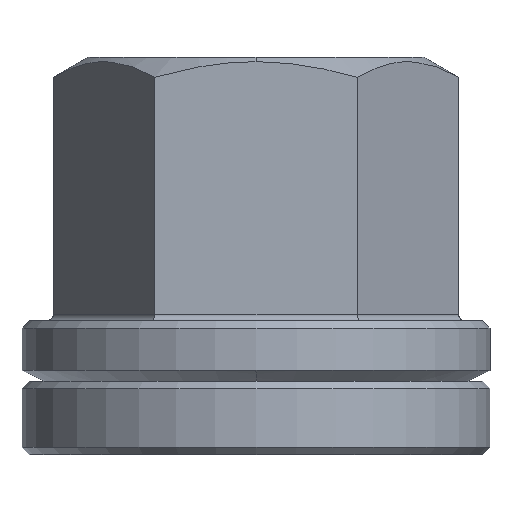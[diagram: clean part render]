
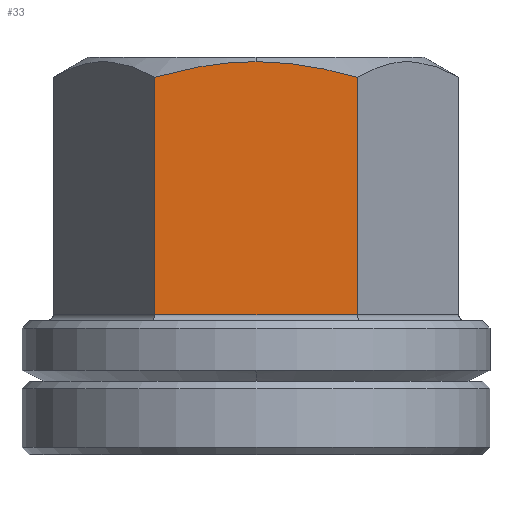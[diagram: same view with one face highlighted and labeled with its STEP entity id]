
A CAD part, left-side view. The second image highlights one B-rep face of the part: STEP entity #33.
In plain terms, the highlighted planar face has unit normal (-1, 0, 0).
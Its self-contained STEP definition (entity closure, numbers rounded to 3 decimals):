
#13 = CARTESIAN_POINT ( 'NONE',  ( -12., -4.647, 26.391 ) ) ;
#24 = EDGE_CURVE ( 'NONE', #604, #758, #165, .T. ) ;
#33 = ADVANCED_FACE ( 'NONE', ( #845 ), #1089, .T. ) ;
#39 = VECTOR ( 'NONE', #473, 1000. ) ;
#103 = CARTESIAN_POINT ( 'NONE',  ( -12., -6.928, -27.507 ) ) ;
#143 = EDGE_CURVE ( 'NONE', #604, #1190, #286, .T. ) ;
#152 = CARTESIAN_POINT ( 'NONE',  ( -12., 4.673, 26.386 ) ) ;
#161 = CARTESIAN_POINT ( 'NONE',  ( -12., 6.928, 9.553 ) ) ;
#165 = LINE ( 'NONE', #934, #825 ) ;
#186 = CARTESIAN_POINT ( 'NONE',  ( -12., 0., 26.865 ) ) ;
#191 = LINE ( 'NONE', #103, #39 ) ;
#226 = B_SPLINE_CURVE_WITH_KNOTS ( 'NONE', 3,
 ( #1209, #735, #570, #13, #1043, #555 ),
 .UNSPECIFIED., .F., .F.,
 ( 4, 2, 4 ),
 ( 0.038, 0.042, 0.045 ),
 .UNSPECIFIED. ) ;
#256 = CARTESIAN_POINT ( 'NONE',  ( -12., 6.928, -51.746 ) ) ;
#260 = CARTESIAN_POINT ( 'NONE',  ( -12., 2.938, 26.667 ) ) ;
#264 = EDGE_CURVE ( 'NONE', #758, #804, #503, .T. ) ;
#265 = CARTESIAN_POINT ( 'NONE',  ( -12., 0.586, 26.865 ) ) ;
#286 = LINE ( 'NONE', #666, #1014 ) ;
#294 = ORIENTED_EDGE ( 'NONE', *, *, #374, .F. ) ;
#339 = VERTEX_POINT ( 'NONE', #674 ) ;
#340 = CARTESIAN_POINT ( 'NONE',  ( -12., 5.808, 26.116 ) ) ;
#356 = DIRECTION ( 'NONE',  ( 0., 0., 1. ) ) ;
#374 = EDGE_CURVE ( 'NONE', #804, #339, #226, .T. ) ;
#463 = DIRECTION ( 'NONE',  ( 0., -1., 0. ) ) ;
#472 = ORIENTED_EDGE ( 'NONE', *, *, #24, .F. ) ;
#473 = DIRECTION ( 'NONE',  ( 0., 0., 1. ) ) ;
#503 = B_SPLINE_CURVE_WITH_KNOTS ( 'NONE', 3,
 ( #544, #340, #152, #260, #1193, #1100, #265, #645 ),
 .UNSPECIFIED., .F., .F.,
 ( 4, 2, 2, 4 ),
 ( 0.031, 0.035, 0.036, 0.038 ),
 .UNSPECIFIED. ) ;
#527 = CARTESIAN_POINT ( 'NONE',  ( -12., 6.928, 25.793 ) ) ;
#542 = DIRECTION ( 'NONE',  ( -1., 0., 0. ) ) ;
#544 = CARTESIAN_POINT ( 'NONE',  ( -12., 6.928, 25.793 ) ) ;
#551 = ORIENTED_EDGE ( 'NONE', *, *, #264, .F. ) ;
#555 = CARTESIAN_POINT ( 'NONE',  ( -12., -6.928, 25.793 ) ) ;
#570 = CARTESIAN_POINT ( 'NONE',  ( -12., -2.334, 26.764 ) ) ;
#604 = VERTEX_POINT ( 'NONE', #161 ) ;
#639 = DIRECTION ( 'NONE',  ( 0., 0., 1. ) ) ;
#645 = CARTESIAN_POINT ( 'NONE',  ( -12., 0., 26.865 ) ) ;
#666 = CARTESIAN_POINT ( 'NONE',  ( -12., -6.928, 9.553 ) ) ;
#674 = CARTESIAN_POINT ( 'NONE',  ( -12., -6.928, 25.793 ) ) ;
#714 = ORIENTED_EDGE ( 'NONE', *, *, #143, .T. ) ;
#735 = CARTESIAN_POINT ( 'NONE',  ( -12., -1.171, 26.865 ) ) ;
#736 = AXIS2_PLACEMENT_3D ( 'NONE', #256, #542, #356 ) ;
#744 = CARTESIAN_POINT ( 'NONE',  ( -12., -6.928, 9.553 ) ) ;
#758 = VERTEX_POINT ( 'NONE', #527 ) ;
#774 = ORIENTED_EDGE ( 'NONE', *, *, #815, .T. ) ;
#804 = VERTEX_POINT ( 'NONE', #186 ) ;
#815 = EDGE_CURVE ( 'NONE', #1190, #339, #191, .T. ) ;
#825 = VECTOR ( 'NONE', #639, 1000. ) ;
#845 = FACE_OUTER_BOUND ( 'NONE', #1158, .T. ) ;
#934 = CARTESIAN_POINT ( 'NONE',  ( -12., 6.928, -27.507 ) ) ;
#1014 = VECTOR ( 'NONE', #463, 1000. ) ;
#1043 = CARTESIAN_POINT ( 'NONE',  ( -12., -5.801, 26.118 ) ) ;
#1089 = PLANE ( 'NONE',  #736 ) ;
#1100 = CARTESIAN_POINT ( 'NONE',  ( -12., 1.174, 26.84 ) ) ;
#1158 = EDGE_LOOP ( 'NONE', ( #472, #714, #774, #294, #551 ) ) ;
#1190 = VERTEX_POINT ( 'NONE', #744 ) ;
#1193 = CARTESIAN_POINT ( 'NONE',  ( -12., 2.354, 26.741 ) ) ;
#1209 = CARTESIAN_POINT ( 'NONE',  ( -12., 0., 26.865 ) ) ;
